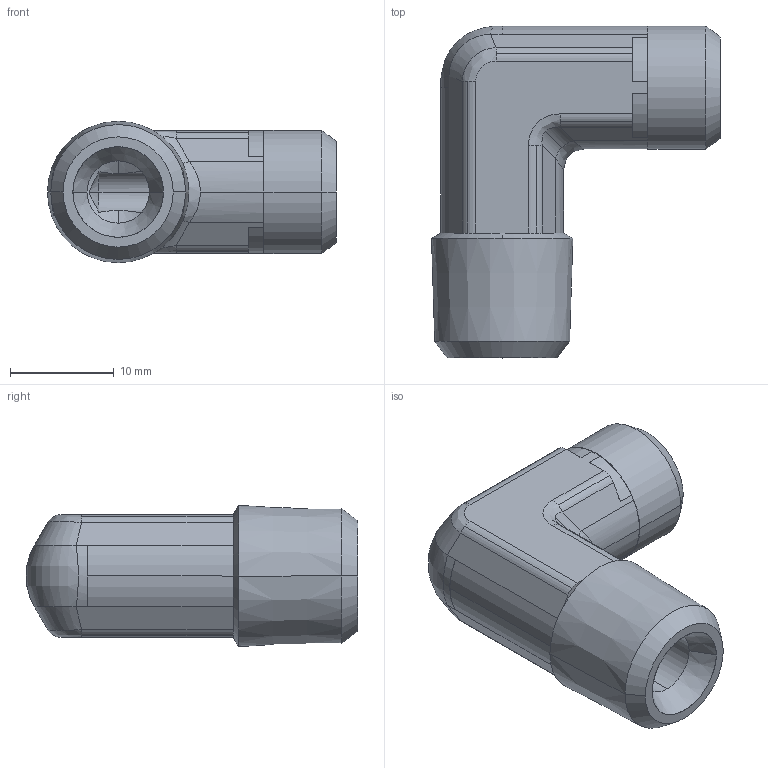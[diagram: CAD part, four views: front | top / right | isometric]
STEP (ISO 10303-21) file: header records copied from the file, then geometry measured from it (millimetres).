
FILE_DESCRIPTION((''),'2;1');
FILE_NAME('102024.stp','2007-10-30T16:36:48',(''),(''),'AutoCAD STEP 2000i','AutoCAD 2000i',', , ');
FILE_SCHEMA(('CONFIG_CONTROL_DESIGN'));
Length unit declared in the file: millimetre
Products named in the file (2): 102024.0; 3090#0
Assembly tree (1 placements, depth 2):
  102024.0
    3090#0
Bounding box: 27.8 x 31.93 x 13.59 mm (x, y, z)
Volume: 4371.9 mm3; surface area: 2769.3 mm2
Topology: 1 solids, 1 shells, 102 faces, 248 edges, 149 vertices
Faces by surface type: cylinder 40, plane 29, cone 19, bspline 14
Entity records: 3867 total; most frequent: CARTESIAN_POINT 1358, DIRECTION 531, ORIENTED_EDGE 496, EDGE_CURVE 248, AXIS2_PLACEMENT_3D 213, VERTEX_POINT 149, CIRCLE 113, VECTOR 105
